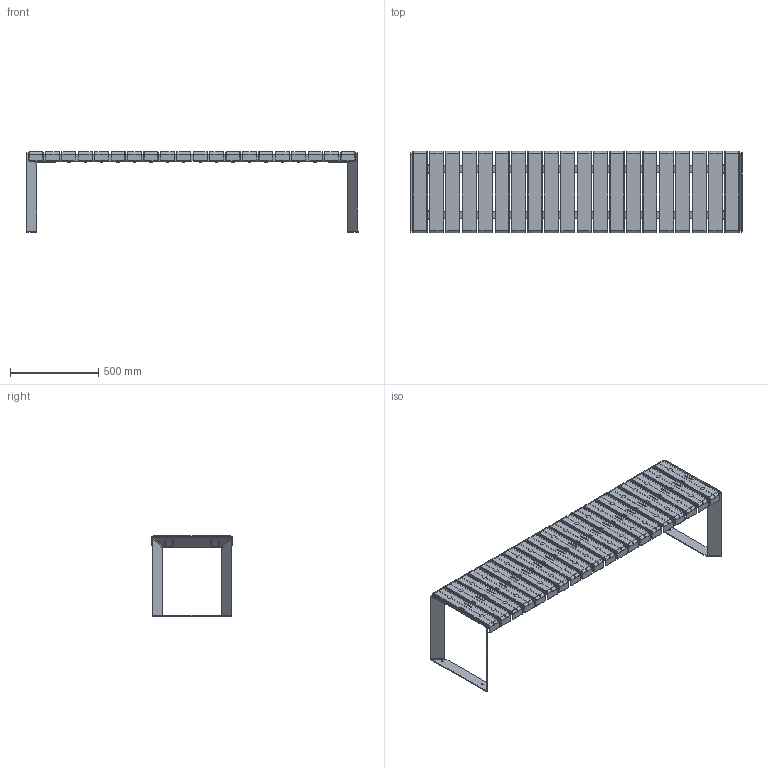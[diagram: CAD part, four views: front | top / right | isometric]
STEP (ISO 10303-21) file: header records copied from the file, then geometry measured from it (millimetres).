
FILE_DESCRIPTION(('STEP AP203'),'1');
FILE_NAME('UT80PL2000AXX + FIANCHI.stp','2025-11-11T13:32:44',(' '),(' '),'Spatial InterOp 3D',' ',' ');
FILE_SCHEMA(('CONFIG_CONTROL_DESIGN'));
Length unit declared in the file: millimetre
Products named in the file (1): UT80PL2000AXX + FIANCHI
Bounding box: 1880.16 x 460 x 454 mm (x, y, z)
Surface area: 3535874 mm2 (no closed solid volume)
Topology: 0 solids, 386 shells, 3750 faces, 16851 edges, 13219 vertices
Faces by surface type: plane 1481, cylinder 1400, torus 651, bspline 212, extrusion 6
Full cylindrical faces by diameter (mm): 6.8 x8, 8 x4, 10 x4, 13 x8, 17.8 x44
Entity records: 209333 total; most frequent: CARTESIAN_POINT 79427, DIRECTION 25522, ORIENTED_EDGE 23373, EDGE_CURVE 16651, VERTEX_POINT 13203, VECTOR 10194, LINE 10188, AXIS2_PLACEMENT_3D 7664
